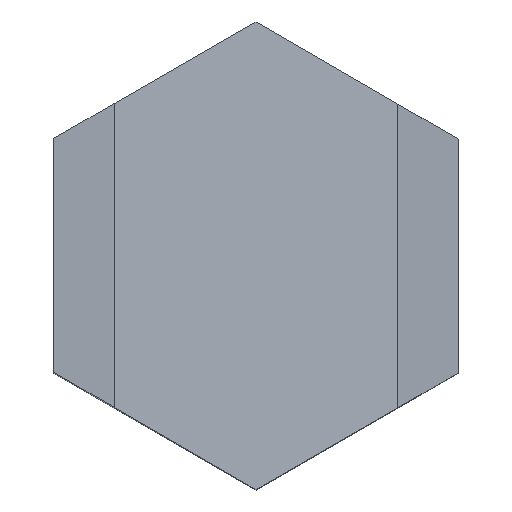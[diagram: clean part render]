
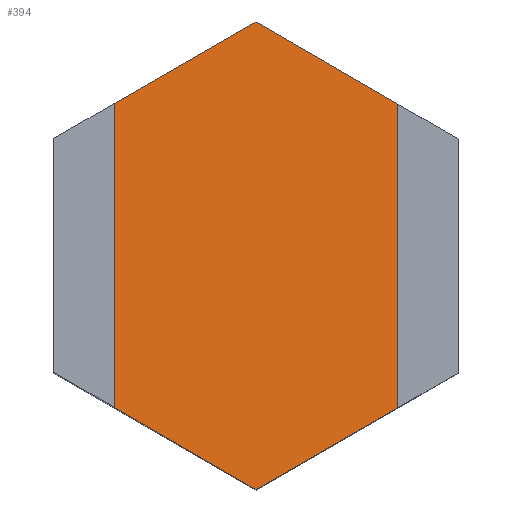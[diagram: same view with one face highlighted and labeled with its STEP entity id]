
A CAD part, top view. The second image highlights one B-rep face of the part: STEP entity #394.
In plain terms, the highlighted planar face has unit normal (0.64, 0, 0.768).
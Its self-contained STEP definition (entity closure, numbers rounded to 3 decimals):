
#32 = PLANE('',#33);
#33 = AXIS2_PLACEMENT_3D('',#34,#35,#36);
#34 = CARTESIAN_POINT('',(0.,-17.321,0.));
#35 = DIRECTION('',(0.5,0.866,-0.));
#36 = DIRECTION('',(0.866,-0.5,0.));
#113 = VERTEX_POINT('',#114);
#114 = CARTESIAN_POINT('',(9.,-22.517,59.));
#127 = PLANE('',#128);
#128 = AXIS2_PLACEMENT_3D('',#129,#130,#131);
#129 = CARTESIAN_POINT('',(9.,100.,59.));
#130 = DIRECTION('',(-1.,0.,0.));
#131 = DIRECTION('',(0.,0.,1.));
#138 = EDGE_CURVE('',#139,#113,#141,.T.);
#139 = VERTEX_POINT('',#140);
#140 = CARTESIAN_POINT('',(30.,-34.641,41.5));
#141 = SURFACE_CURVE('',#142,(#146,#152),.PCURVE_S1.);
#142 = LINE('',#143,#144);
#143 = CARTESIAN_POINT('',(18.271,-27.869,
    51.274));
#144 = VECTOR('',#145,1.);
#145 = DIRECTION('',(-0.702,0.405,0.585));
#146 = PCURVE('',#32,#147);
#147 = DEFINITIONAL_REPRESENTATION('',(#148),#151);
#148 = B_SPLINE_CURVE_WITH_KNOTS('',1,(#149,#150),.UNSPECIFIED.,.F.,.F.,
  (2,2),(-16.702,13.202),.PIECEWISE_BEZIER_KNOTS.);
#149 = CARTESIAN_POINT('',(34.641,-41.5));
#150 = CARTESIAN_POINT('',(10.392,-59.));
#151 = ( GEOMETRIC_REPRESENTATION_CONTEXT(2) 
PARAMETRIC_REPRESENTATION_CONTEXT() REPRESENTATION_CONTEXT('2D SPACE',''
  ) );
#152 = PCURVE('',#153,#158);
#153 = PLANE('',#154);
#154 = AXIS2_PLACEMENT_3D('',#155,#156,#157);
#155 = CARTESIAN_POINT('',(51.,100.,24.));
#156 = DIRECTION('',(-0.64,-0.,-0.768));
#157 = DIRECTION('',(-0.768,0.,0.64));
#158 = DEFINITIONAL_REPRESENTATION('',(#159),#162);
#159 = B_SPLINE_CURVE_WITH_KNOTS('',1,(#160,#161),.UNSPECIFIED.,.F.,.F.,
  (2,2),(-16.702,13.202),.PIECEWISE_BEZIER_KNOTS.);
#160 = CARTESIAN_POINT('',(27.336,-134.641));
#161 = CARTESIAN_POINT('',(54.672,-122.517));
#162 = ( GEOMETRIC_REPRESENTATION_CONTEXT(2) 
PARAMETRIC_REPRESENTATION_CONTEXT() REPRESENTATION_CONTEXT('2D SPACE',''
  ) );
#178 = PLANE('',#179);
#179 = AXIS2_PLACEMENT_3D('',#180,#181,#182);
#180 = CARTESIAN_POINT('',(30.,-34.641,0.));
#181 = DIRECTION('',(-0.5,0.866,0.));
#182 = DIRECTION('',(0.866,0.5,0.));
#261 = PLANE('',#262);
#262 = AXIS2_PLACEMENT_3D('',#263,#264,#265);
#263 = CARTESIAN_POINT('',(60.,17.321,0.));
#264 = DIRECTION('',(-0.5,-0.866,0.));
#265 = DIRECTION('',(-0.866,0.5,0.));
#289 = PLANE('',#290);
#290 = AXIS2_PLACEMENT_3D('',#291,#292,#293);
#291 = CARTESIAN_POINT('',(30.,34.641,0.));
#292 = DIRECTION('',(0.5,-0.866,0.));
#293 = DIRECTION('',(-0.866,-0.5,0.));
#327 = EDGE_CURVE('',#328,#139,#330,.T.);
#328 = VERTEX_POINT('',#329);
#329 = CARTESIAN_POINT('',(51.,-22.517,24.));
#330 = SURFACE_CURVE('',#331,(#335,#341),.PCURVE_S1.);
#331 = LINE('',#332,#333);
#332 = CARTESIAN_POINT('',(66.469,-13.586,
    11.109));
#333 = VECTOR('',#334,1.);
#334 = DIRECTION('',(-0.702,-0.405,0.585));
#335 = PCURVE('',#178,#336);
#336 = DEFINITIONAL_REPRESENTATION('',(#337),#340);
#337 = B_SPLINE_CURVE_WITH_KNOTS('',1,(#338,#339),.UNSPECIFIED.,.F.,.F.,
  (2,2),(22.028,51.932),.PIECEWISE_BEZIER_KNOTS.);
#338 = CARTESIAN_POINT('',(24.249,-24.));
#339 = CARTESIAN_POINT('',(0.,-41.5));
#340 = ( GEOMETRIC_REPRESENTATION_CONTEXT(2) 
PARAMETRIC_REPRESENTATION_CONTEXT() REPRESENTATION_CONTEXT('2D SPACE',''
  ) );
#341 = PCURVE('',#153,#342);
#342 = DEFINITIONAL_REPRESENTATION('',(#343),#346);
#343 = B_SPLINE_CURVE_WITH_KNOTS('',1,(#344,#345),.UNSPECIFIED.,.F.,.F.,
  (2,2),(22.028,51.932),.PIECEWISE_BEZIER_KNOTS.);
#344 = CARTESIAN_POINT('',(0.,-122.517));
#345 = CARTESIAN_POINT('',(27.336,-134.641));
#346 = ( GEOMETRIC_REPRESENTATION_CONTEXT(2) 
PARAMETRIC_REPRESENTATION_CONTEXT() REPRESENTATION_CONTEXT('2D SPACE',''
  ) );
#363 = PLANE('',#364);
#364 = AXIS2_PLACEMENT_3D('',#365,#366,#367);
#365 = CARTESIAN_POINT('',(60.,100.,24.));
#366 = DIRECTION('',(-0.,-0.,-1.));
#367 = DIRECTION('',(-1.,0.,0.));
#394 = ADVANCED_FACE('',(#395),#153,.F.);
#395 = FACE_BOUND('',#396,.F.);
#396 = EDGE_LOOP('',(#397,#420,#441,#442,#443,#466));
#397 = ORIENTED_EDGE('',*,*,#398,.T.);
#398 = EDGE_CURVE('',#399,#401,#403,.T.);
#399 = VERTEX_POINT('',#400);
#400 = CARTESIAN_POINT('',(30.,34.641,41.5));
#401 = VERTEX_POINT('',#402);
#402 = CARTESIAN_POINT('',(51.,22.517,24.));
#403 = SURFACE_CURVE('',#404,(#408,#414),.PCURVE_S1.);
#404 = LINE('',#405,#406);
#405 = CARTESIAN_POINT('',(47.86,24.33,
    26.617));
#406 = VECTOR('',#407,1.);
#407 = DIRECTION('',(0.702,-0.405,-0.585));
#408 = PCURVE('',#153,#409);
#409 = DEFINITIONAL_REPRESENTATION('',(#410),#413);
#410 = B_SPLINE_CURVE_WITH_KNOTS('',1,(#411,#412),.UNSPECIFIED.,.F.,.F.,
  (2,2),(-25.432,4.472),.PIECEWISE_BEZIER_KNOTS.);
#411 = CARTESIAN_POINT('',(27.336,-65.359));
#412 = CARTESIAN_POINT('',(0.,-77.483));
#413 = ( GEOMETRIC_REPRESENTATION_CONTEXT(2) 
PARAMETRIC_REPRESENTATION_CONTEXT() REPRESENTATION_CONTEXT('2D SPACE',''
  ) );
#414 = PCURVE('',#261,#415);
#415 = DEFINITIONAL_REPRESENTATION('',(#416),#419);
#416 = B_SPLINE_CURVE_WITH_KNOTS('',1,(#417,#418),.UNSPECIFIED.,.F.,.F.,
  (2,2),(-25.432,4.472),.PIECEWISE_BEZIER_KNOTS.);
#417 = CARTESIAN_POINT('',(34.641,-41.5));
#418 = CARTESIAN_POINT('',(10.392,-24.));
#419 = ( GEOMETRIC_REPRESENTATION_CONTEXT(2) 
PARAMETRIC_REPRESENTATION_CONTEXT() REPRESENTATION_CONTEXT('2D SPACE',''
  ) );
#420 = ORIENTED_EDGE('',*,*,#421,.T.);
#421 = EDGE_CURVE('',#401,#328,#422,.T.);
#422 = SURFACE_CURVE('',#423,(#427,#434),.PCURVE_S1.);
#423 = LINE('',#424,#425);
#424 = CARTESIAN_POINT('',(51.,100.,24.));
#425 = VECTOR('',#426,1.);
#426 = DIRECTION('',(0.,-1.,0.));
#427 = PCURVE('',#153,#428);
#428 = DEFINITIONAL_REPRESENTATION('',(#429),#433);
#429 = LINE('',#430,#431);
#430 = CARTESIAN_POINT('',(0.,0.));
#431 = VECTOR('',#432,1.);
#432 = DIRECTION('',(0.,-1.));
#433 = ( GEOMETRIC_REPRESENTATION_CONTEXT(2) 
PARAMETRIC_REPRESENTATION_CONTEXT() REPRESENTATION_CONTEXT('2D SPACE',''
  ) );
#434 = PCURVE('',#363,#435);
#435 = DEFINITIONAL_REPRESENTATION('',(#436),#440);
#436 = LINE('',#437,#438);
#437 = CARTESIAN_POINT('',(9.,0.));
#438 = VECTOR('',#439,1.);
#439 = DIRECTION('',(0.,-1.));
#440 = ( GEOMETRIC_REPRESENTATION_CONTEXT(2) 
PARAMETRIC_REPRESENTATION_CONTEXT() REPRESENTATION_CONTEXT('2D SPACE',''
  ) );
#441 = ORIENTED_EDGE('',*,*,#327,.T.);
#442 = ORIENTED_EDGE('',*,*,#138,.T.);
#443 = ORIENTED_EDGE('',*,*,#444,.F.);
#444 = EDGE_CURVE('',#445,#113,#447,.T.);
#445 = VERTEX_POINT('',#446);
#446 = CARTESIAN_POINT('',(9.,22.517,59.));
#447 = SURFACE_CURVE('',#448,(#452,#459),.PCURVE_S1.);
#448 = LINE('',#449,#450);
#449 = CARTESIAN_POINT('',(9.,100.,59.));
#450 = VECTOR('',#451,1.);
#451 = DIRECTION('',(0.,-1.,0.));
#452 = PCURVE('',#153,#453);
#453 = DEFINITIONAL_REPRESENTATION('',(#454),#458);
#454 = LINE('',#455,#456);
#455 = CARTESIAN_POINT('',(54.672,0.));
#456 = VECTOR('',#457,1.);
#457 = DIRECTION('',(0.,-1.));
#458 = ( GEOMETRIC_REPRESENTATION_CONTEXT(2) 
PARAMETRIC_REPRESENTATION_CONTEXT() REPRESENTATION_CONTEXT('2D SPACE',''
  ) );
#459 = PCURVE('',#127,#460);
#460 = DEFINITIONAL_REPRESENTATION('',(#461),#465);
#461 = LINE('',#462,#463);
#462 = CARTESIAN_POINT('',(0.,0.));
#463 = VECTOR('',#464,1.);
#464 = DIRECTION('',(0.,-1.));
#465 = ( GEOMETRIC_REPRESENTATION_CONTEXT(2) 
PARAMETRIC_REPRESENTATION_CONTEXT() REPRESENTATION_CONTEXT('2D SPACE',''
  ) );
#466 = ORIENTED_EDGE('',*,*,#467,.T.);
#467 = EDGE_CURVE('',#445,#399,#468,.T.);
#468 = SURFACE_CURVE('',#469,(#473,#479),.PCURVE_S1.);
#469 = LINE('',#470,#471);
#470 = CARTESIAN_POINT('',(56.606,50.002,
    19.328));
#471 = VECTOR('',#472,1.);
#472 = DIRECTION('',(0.702,0.405,-0.585));
#473 = PCURVE('',#153,#474);
#474 = DEFINITIONAL_REPRESENTATION('',(#475),#478);
#475 = B_SPLINE_CURVE_WITH_KNOTS('',1,(#476,#477),.UNSPECIFIED.,.F.,.F.,
  (2,2),(-67.791,-37.887),.PIECEWISE_BEZIER_KNOTS.);
#476 = CARTESIAN_POINT('',(54.672,-77.483));
#477 = CARTESIAN_POINT('',(27.336,-65.359));
#478 = ( GEOMETRIC_REPRESENTATION_CONTEXT(2) 
PARAMETRIC_REPRESENTATION_CONTEXT() REPRESENTATION_CONTEXT('2D SPACE',''
  ) );
#479 = PCURVE('',#289,#480);
#480 = DEFINITIONAL_REPRESENTATION('',(#481),#484);
#481 = B_SPLINE_CURVE_WITH_KNOTS('',1,(#482,#483),.UNSPECIFIED.,.F.,.F.,
  (2,2),(-67.791,-37.887),.PIECEWISE_BEZIER_KNOTS.);
#482 = CARTESIAN_POINT('',(24.249,-59.));
#483 = CARTESIAN_POINT('',(0.,-41.5));
#484 = ( GEOMETRIC_REPRESENTATION_CONTEXT(2) 
PARAMETRIC_REPRESENTATION_CONTEXT() REPRESENTATION_CONTEXT('2D SPACE',''
  ) );
